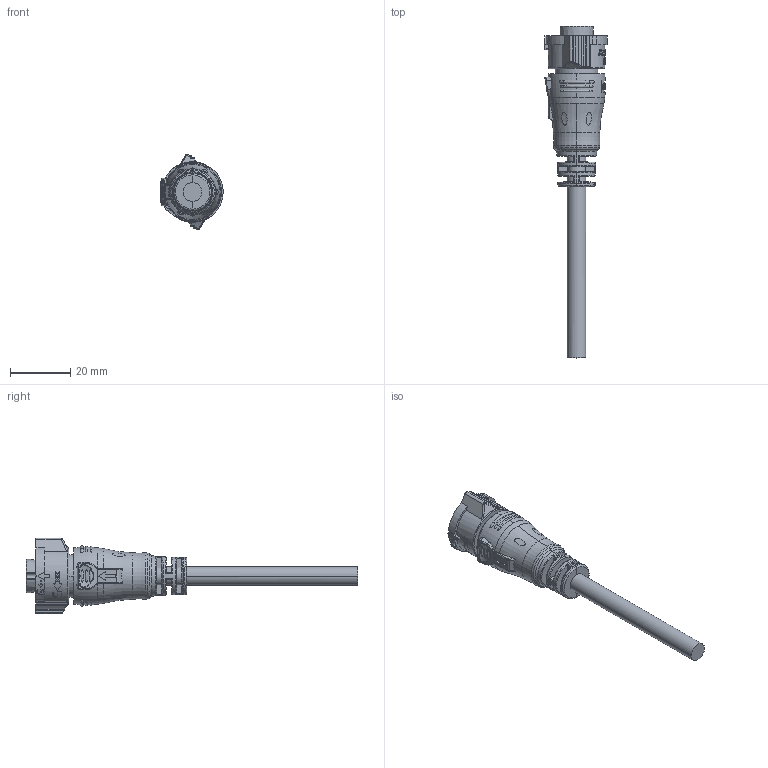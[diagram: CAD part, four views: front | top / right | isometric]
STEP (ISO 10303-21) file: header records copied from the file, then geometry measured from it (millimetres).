
FILE_DESCRIPTION((''),'2;1');
FILE_NAME('BD-05AFFM-QL8DXX_SW0001','2016-09-03T',('KS5230'),(''),'PRO/ENGINEER BY PARAMETRIC TECHNOLOGY CORPORATION, 2013050','PRO/ENGINEER BY PARAMETRIC TECHNOLOGY CORPORATION, 2013050','');
FILE_SCHEMA(('CONFIG_CONTROL_DESIGN'));
Products named in the file (1): BD-05AFFM-QL8DXX_SW0001
Bounding box: 20.7 x 110.15 x 25 mm (x, y, z)
Volume: 12218.5 mm3; surface area: 6674.2 mm2
Topology: 1 solids, 1 shells, 994 faces, 2708 edges, 1767 vertices
Faces by surface type: plane 423, extrusion 222, cylinder 132, bspline 118, cone 48, torus 33, revolution 15, sphere 3
Entity records: 46672 total; most frequent: CARTESIAN_POINT 19503, ORIENTED_EDGE 5412, DIRECTION 3809, EDGE_CURVE 2706, VERTEX_POINT 1767, VECTOR 1336, B_SPLINE_CURVE_WITH_KNOTS 1239, AXIS2_PLACEMENT_3D 1229
